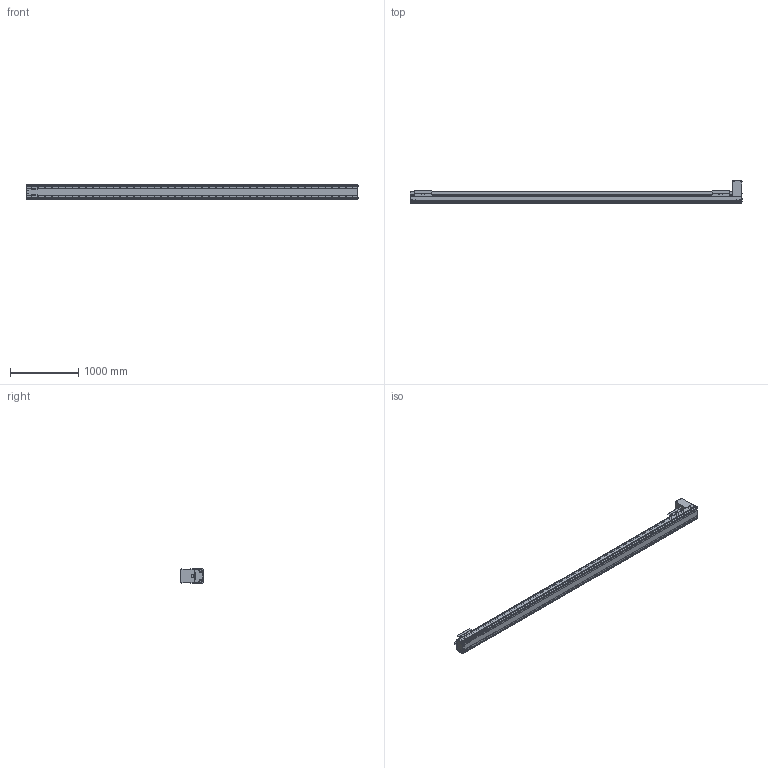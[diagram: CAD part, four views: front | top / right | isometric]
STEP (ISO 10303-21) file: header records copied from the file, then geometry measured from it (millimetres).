
FILE_DESCRIPTION((''),'2;1');
FILE_NAME('BE60J-BT-M19N-X35_IGS_PRT','2017-06-18T',(' '),(''),'PRO/ENGINEER BY PARAMETRIC TECHNOLOGY CORPORATION, 2015030','PRO/ENGINEER BY PARAMETRIC TECHNOLOGY CORPORATION, 2015030','');
FILE_SCHEMA(('CONFIG_CONTROL_DESIGN'));
Products named in the file (1): BE60J-BT-M19N-X35_IGS_PRT
Bounding box: 4854.4 x 327.5 x 214 mm (x, y, z)
Volume: 2368025.4 mm3; surface area: 11650110.1 mm2
Topology: 13 solids, 380 shells, 3388 faces, 9943 edges, 6621 vertices
Faces by surface type: cylinder 1934, plane 1078, cone 280, torus 48, sphere 48
Entity records: 116754 total; most frequent: CARTESIAN_POINT 27672, DIRECTION 18424, ORIENTED_EDGE 17520, EDGE_CURVE 9616, AXIS2_PLACEMENT_3D 7096, VERTEX_POINT 6588, EDGE_LOOP 4382, VECTOR 4232
